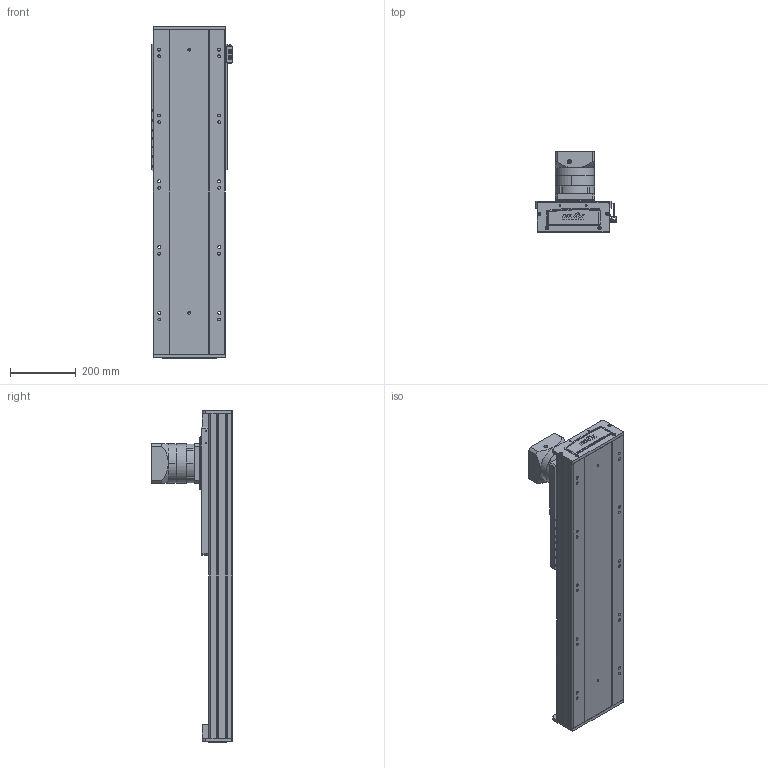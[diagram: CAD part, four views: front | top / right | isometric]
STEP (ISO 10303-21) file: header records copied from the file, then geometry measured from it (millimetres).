
FILE_DESCRIPTION (( 'STEP AP203' ), '1' );
FILE_NAME ('RY220-C-300-UK.SLDASM_0500.step', '2022-08-01T05:58:39', ( '' ), ( '' ), 'SwSTEP 2.0', 'SolidWorks 2016', '' );
FILE_SCHEMA (( 'CONFIG_CONTROL_DESIGN' ));
Length unit declared in the file: millimetre
Products named in the file (10): RY140直线电机感应器674光电安装座; RY220-齿条模组电机安装板; RY220喘沭綴裔啣; PF115L1-S2-22-58-110-145-M8; RY220喘沭俋离覜茼え; RY220喘沭賑輸; 覜茼ん674; RY220菁釱MK-300_0500; RY220-C-300-UK.SLDASM_0500; 滅袉蝶輸ㄗG412隅秶ㄘ
Assembly tree (12 placements, depth 2):
  RY220-C-300-UK.SLDASM_0500
    RY220菁釱MK-300_0500
    RY220喘沭賑輸
    RY220-齿条模组电机安装板
    PF115L1-S2-22-58-110-145-M8
    RY220喘沭綴裔啣  x2
    滅袉蝶輸ㄗG412隅秶ㄘ  x2
    RY140直线电机感应器674光电安装座
    覜茼ん674  x2
    RY220喘沭俋离覜茼え
Bounding box: 247 x 244.5 x 1009 mm (x, y, z)
Volume: 9706479.3 mm3; surface area: 1841002.7 mm2
Topology: 18 solids, 26 shells, 1848 faces, 4935 edges, 3168 vertices
Faces by surface type: cylinder 815, plane 751, bspline 162, cone 120
Entity records: 58141 total; most frequent: CARTESIAN_POINT 16104, ORIENTED_EDGE 8530, DIRECTION 8515, EDGE_CURVE 4265, AXIS2_PLACEMENT_3D 3207, VERTEX_POINT 2794, VECTOR 2101, LINE 2101
